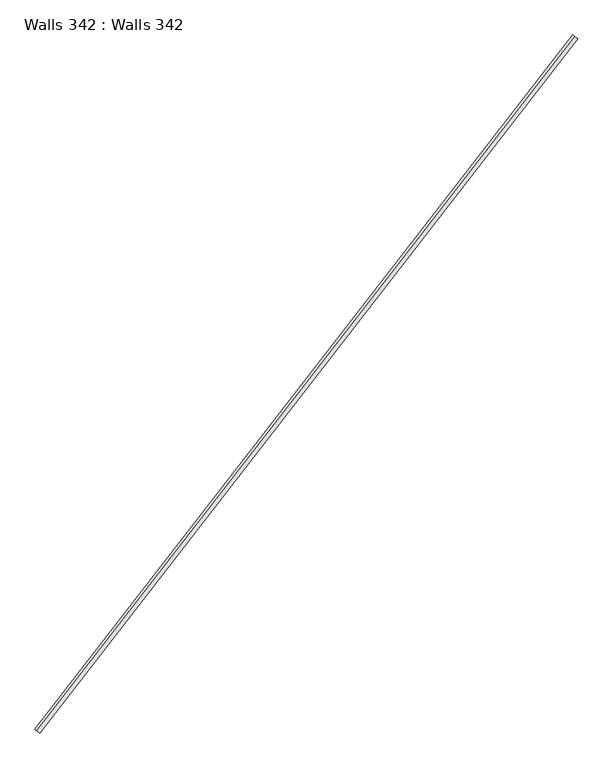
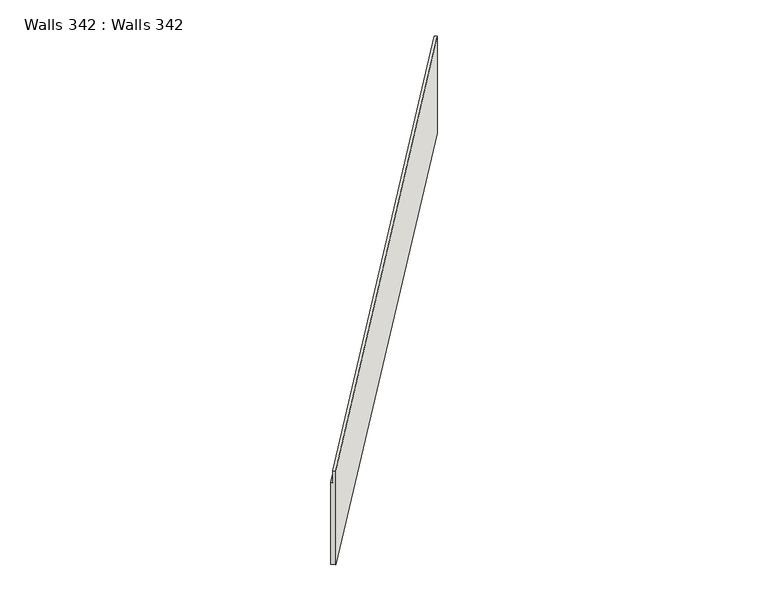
"""IFC4 building model written with IfcOpenShell, lengths in millimetres: wall geometry, Walls 342 : Walls 342."""

from ifc_helpers import new_model, si_unit, origin, place, context, project, spatial, faceted_brep, source, transform, mapped, element, save


def walls_342_walls_342_52f7fc45(model_context):
    return source(origin(), model_context, "Body", "Brep", [
        faceted_brep([(98768.793639, -6431.4807325, 640056.0), (99045.3788984, -6645.9582238, 640056.0), (99045.3788984, -6645.9582238, 647824.0), (98887.3301787, -6523.3996573, 647824.0), (98887.3301787, -6523.3996573, 646824.0), (98768.793639, -6431.4807325, 646824.0), (129870.9421146, 33677.1374345, 640603.0), (129870.9421146, 33677.1374345, 647603.0), (129989.4786543, 33585.2185096, 647603.0), (129989.4786543, 33585.2185096, 648603.0), (130147.527374, 33462.6599432, 648603.0), (130147.527374, 33462.6599432, 640603.0)], [[[0, 1, 2, 3, 4, 5]], [[6, 7, 8, 9, 10, 11]], [[6, 11, 1, 0]], [[11, 10, 2, 1]], [[10, 9, 3, 2]], [[9, 8, 4, 3]], [[8, 7, 5, 4]], [[7, 6, 0, 5]]]),
    ])


if __name__ == "__main__":
    model = new_model("IFC4")
    model_context = context("Model", 3, world=origin())
    ifc_project = project(units=[si_unit("LENGTHUNIT", "METRE", prefix="MILLI")], contexts=[model_context])
    site = spatial("IfcSite", under=ifc_project)
    building = spatial("IfcBuilding", under=site)
    placement = place(None, origin())
    walls_342_walls_342_shape = walls_342_walls_342_52f7fc45(model_context)
    element("IfcWall", 1, ObjectType="Walls 342 : Walls 342", at=placement, inside=building, context=model_context, shape_type="MappedRepresentation", body=[
        mapped(walls_342_walls_342_shape, transform((0.0, 0.0, 0.0), x_axis=(1.0, 0.0, 0.0), y_axis=(0.0, 1.0, 0.0), z_axis=(0.0, 0.0, 1.0))),
    ])
    save(model, "model.ifc")
